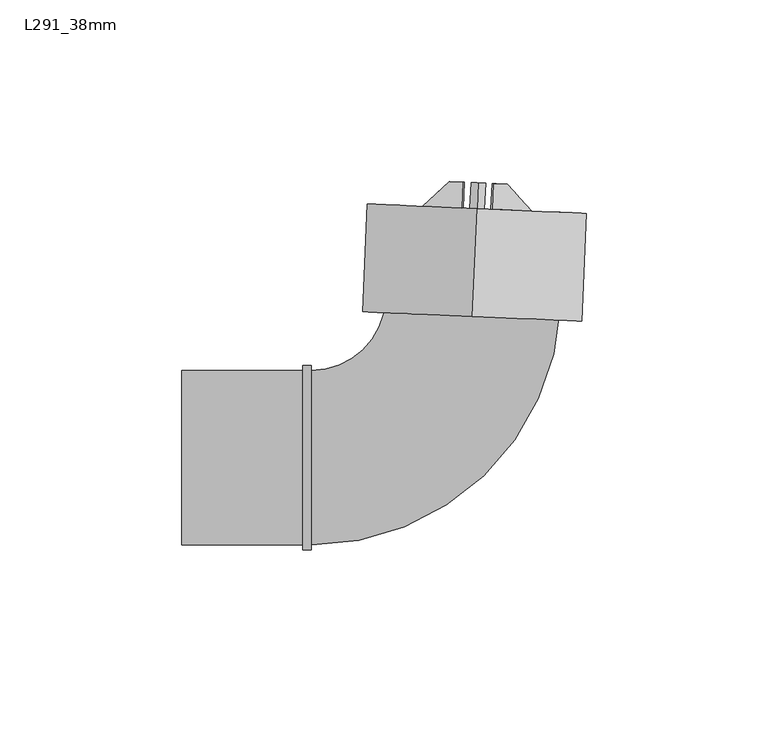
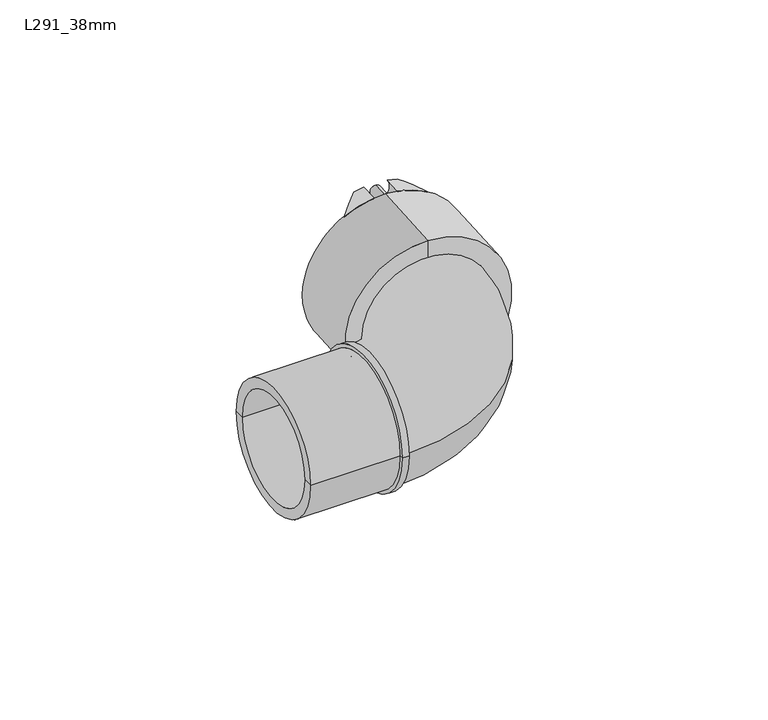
"""IFC4 building model written with IfcOpenShell, lengths in millimetres: pipe fitting geometry, Durapipe_PipeFitting_VulcatheneEnfusion_SingleSocketShortSweepBend_L29 : L291_38mm."""

from ifc_helpers import new_model, si_unit, point, frame, frame_2d, origin, place, context, project, spatial, polyline, circle_curve, ellipse_curve, trimmed, segment, composite_curve, outline, extrude, source, transform, mapped, element, save
from ifc_brep_helpers import plane_surface, cylinder_surface, revolved_surface, advanced_brep


def l291_38mm_34a5a30e(model_context):
    return source(origin(), model_context, "Body", "SolidModel", [
        advanced_brep(
        [(-0.4934982, 75.7931469, -23.8493081), (-0.9344196, 75.8123979, -29.7493081), (-4.6304778, 75.9737713, -28.9820444), (-4.6304778, 75.9737713, -22.8074308), (-11.9934559, 69.1884818, -26.0384811), (-1.2441172, 68.7191556, -29.7493081), (-0.8031959, 68.6999045, -23.8493081), (-11.9934559, 69.1884818, -18.9267668)],
        [
            (0, 1, circle_curve(frame((3.3019651, 75.6274334, -27.1), z_axis=(-0.043619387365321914, -0.9990482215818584, 0.0), x_axis=(0.0, 0.0, 1.0)), 5.0)),
            (1, 2, circle_curve(frame((3.3019651, 75.6274334, 0.0), z_axis=(0.043619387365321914, 0.9990482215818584, 0.0), x_axis=(0.0, 0.0, 1.0)), 30.05)),
            (2, 3),
            (3, 0, circle_curve(frame((3.3019651, 75.6274334, 0.0), z_axis=(-0.043619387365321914, -0.9990482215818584, 0.0), x_axis=(0.0, 0.0, 1.0)), 24.15)),
            (4, 5, circle_curve(frame((2.9922674, 68.534191, 0.0), z_axis=(-0.043619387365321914, -0.9990482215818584, 0.0), x_axis=(0.0, 0.0, 1.0)), 30.05)),
            (5, 6, circle_curve(frame((2.9922674, 68.534191, -27.1), z_axis=(0.043619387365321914, 0.9990482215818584, 0.0), x_axis=(0.0, 0.0, 1.0)), 5.0)),
            (6, 7, circle_curve(frame((2.9922674, 68.534191, 0.0), z_axis=(0.043619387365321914, 0.9990482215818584, 0.0), x_axis=(0.0, 0.0, 1.0)), 24.15)),
            (7, 4),
            (6, 0),
            (3, 7, ellipse_curve(frame((3.6502652, 83.6048193, 0.0), z_axis=(-0.6776702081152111, 0.7353659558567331, 0.0), x_axis=(-0.7353659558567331, -0.6776702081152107, 0.0)), 34.2501456, 24.15)),
            (4, 2, ellipse_curve(frame((3.6502652, 83.6048193, 0.0), z_axis=(0.6776702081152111, -0.7353659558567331, 0.0), x_axis=(0.7353659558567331, 0.6776702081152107, 0.0)), 42.617676, 30.05)),
            (1, 5),
        ],
        [
            plane_surface(frame((-11.6837583, 76.2817242, -26.0384811), z_axis=(0.043619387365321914, 0.9990482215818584, 0.0), x_axis=(0.0, 0.0, 1.0))),
            plane_surface(frame((-11.9934559, 69.1884818, -26.0384811), z_axis=(-0.043619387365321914, -0.9990482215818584, 0.0), x_axis=(0.0, 0.0, -1.0))),
            revolved_surface(polyline([(2.590888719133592, 59.341107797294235, 24.15), (4.7096417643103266, 107.86853079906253, 24.15)]), (2.9922674, 68.534191, 0.0), (-0.043619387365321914, -0.9990482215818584, 0.0)),
            cylinder_surface(frame((2.9922674, 68.534191, 0.0), z_axis=(0.043619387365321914, 0.9990482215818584, 0.0), x_axis=(0.0, 0.0, 1.0)), 30.05),
            revolved_surface(polyline([(3.301965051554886, 75.62743340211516, -22.1), (2.992267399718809, 68.53419099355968, -22.1)]), (2.9922674, 68.534191, -27.1), (0.043619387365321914, 0.9990482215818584, 0.0)),
            plane_surface(frame((-11.9934559, 69.1884818, 30.05), z_axis=(-0.6776702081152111, 0.7353659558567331, 0.0), x_axis=(0.0, 0.0, -1.0))),
        ],
        [
            (0, [[1, 2, 3, 4]]),
            (1, [[5, 6, 7, 8]]),
            (2, [[-7, 9, -4, 10]]),
            (3, [[-5, 11, -2, 12]]),
            (4, [[-1, -9, -6, -12]]),
            (5, [[-3, -11, -8, -10]]),
        ],
    ),
        advanced_brep(
        [(7.5383497, 75.4424688, -29.7493081), (7.0974283, 75.4617199, -23.8493081), (11.2344079, 75.2810955, -22.8074308), (11.2344079, 75.2810955, -28.9820444), (7.228652, 68.3492265, -29.7493081), (17.9779907, 67.8799002, -26.0384811), (17.9779907, 67.8799002, -18.9267668), (6.7877307, 68.3684775, -23.8493081)],
        [
            (0, 1, circle_curve(frame((3.3019651, 75.6274334, -27.1), z_axis=(-0.043619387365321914, -0.9990482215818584, 0.0), x_axis=(0.0, 0.0, 1.0)), 5.0)),
            (1, 2, circle_curve(frame((3.3019651, 75.6274334, 0.0), z_axis=(-0.043619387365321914, -0.9990482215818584, 0.0), x_axis=(0.0, 0.0, 1.0)), 24.15)),
            (2, 3),
            (3, 0, circle_curve(frame((3.3019651, 75.6274334, 0.0), z_axis=(0.043619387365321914, 0.9990482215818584, 0.0), x_axis=(0.0, 0.0, 1.0)), 30.05)),
            (4, 5, circle_curve(frame((2.9922674, 68.534191, 0.0), z_axis=(-0.043619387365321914, -0.9990482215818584, 0.0), x_axis=(0.0, 0.0, 1.0)), 30.05)),
            (5, 6),
            (6, 7, circle_curve(frame((2.9922674, 68.534191, 0.0), z_axis=(0.043619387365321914, 0.9990482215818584, 0.0), x_axis=(0.0, 0.0, 1.0)), 24.15)),
            (7, 4, circle_curve(frame((2.9922674, 68.534191, -27.1), z_axis=(0.043619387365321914, 0.9990482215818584, 0.0), x_axis=(0.0, 0.0, 1.0)), 5.0)),
            (6, 2, ellipse_curve(frame((3.6502652, 83.6048193, 0.0), z_axis=(0.7391828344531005, 0.6735048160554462, 0.0), x_axis=(0.6735048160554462, -0.7391828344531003, 0.0)), 34.2501456, 24.15)),
            (1, 7),
            (4, 0),
            (3, 5, ellipse_curve(frame((3.6502652, 83.6048193, 0.0), z_axis=(-0.7391828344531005, -0.6735048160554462, 0.0), x_axis=(-0.6735048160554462, 0.7391828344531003, 0.0)), 42.617676, 30.05)),
        ],
        [
            plane_surface(frame((-11.6837583, 76.2817242, -26.0384811), z_axis=(0.043619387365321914, 0.9990482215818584, 0.0), x_axis=(0.0, 0.0, 1.0))),
            plane_surface(frame((-11.9934559, 69.1884818, -26.0384811), z_axis=(-0.043619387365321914, -0.9990482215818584, 0.0), x_axis=(0.0, 0.0, -1.0))),
            revolved_surface(polyline([(2.5908887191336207, 59.3411077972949, 24.15), (4.709641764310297, 107.86853079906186, 24.15)]), (2.9922674, 68.534191, 0.0), (-0.043619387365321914, -0.9990482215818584, 0.0)),
            cylinder_surface(frame((2.9922674, 68.534191, 0.0), z_axis=(0.043619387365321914, 0.9990482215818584, 0.0), x_axis=(0.0, 0.0, 1.0)), 30.05),
            revolved_surface(polyline([(3.301965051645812, 75.6274334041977, -22.1), (2.9922674, 68.534191, -22.1)]), (2.9922674, 68.534191, -27.1), (0.043619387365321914, 0.9990482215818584, 0.0)),
            plane_surface(frame((11.2344079, 75.2810955, 30.05), z_axis=(0.7391828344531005, 0.6735048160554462, 0.0), x_axis=(0.0, 0.0, -1.0))),
        ],
        [
            (0, [[1, 2, 3, 4]]),
            (1, [[5, 6, 7, 8]]),
            (2, [[-7, 9, -2, 10]]),
            (3, [[-5, 11, -4, 12]]),
            (4, [[-1, -11, -8, -10]]),
            (5, [[-3, -9, -6, -12]]),
        ],
    ),
        advanced_brep(
        [(-0.9344196, 75.8123979, 29.7493081), (-0.4934982, 75.7931469, 23.8493081), (-4.6304778, 75.9737713, 22.8074308), (-4.6304778, 75.9737713, 28.9820444), (-1.2441172, 68.7191556, 29.7493081), (-11.9934559, 69.1884818, 26.0384811), (-11.9934559, 69.1884818, 18.9267668), (-0.8031959, 68.6999045, 23.8493081)],
        [
            (0, 1, circle_curve(frame((3.3019651, 75.6274334, 27.1), z_axis=(-0.043619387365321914, -0.9990482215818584, 0.0), x_axis=(0.0, 0.0, 1.0)), 5.0)),
            (1, 2, circle_curve(frame((3.3019651, 75.6274334, 0.0), z_axis=(-0.043619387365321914, -0.9990482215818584, 0.0), x_axis=(0.0, 0.0, 1.0)), 24.15)),
            (2, 3),
            (3, 0, circle_curve(frame((3.3019651, 75.6274334, 0.0), z_axis=(0.043619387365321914, 0.9990482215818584, 0.0), x_axis=(0.0, 0.0, 1.0)), 30.05)),
            (4, 5, circle_curve(frame((2.9922674, 68.534191, 0.0), z_axis=(-0.043619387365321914, -0.9990482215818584, 0.0), x_axis=(0.0, 0.0, 1.0)), 30.05)),
            (5, 6),
            (6, 7, circle_curve(frame((2.9922674, 68.534191, 0.0), z_axis=(0.043619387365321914, 0.9990482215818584, 0.0), x_axis=(0.0, 0.0, 1.0)), 24.15)),
            (7, 4, circle_curve(frame((2.9922674, 68.534191, 27.1), z_axis=(0.043619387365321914, 0.9990482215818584, 0.0), x_axis=(0.0, 0.0, 1.0)), 5.0)),
            (6, 2, ellipse_curve(frame((3.6502652, 83.6048193, 0.0), z_axis=(-0.6776702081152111, 0.7353659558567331, 0.0), x_axis=(-0.7353659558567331, -0.6776702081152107, 0.0)), 34.2501456, 24.15)),
            (1, 7),
            (4, 0),
            (3, 5, ellipse_curve(frame((3.6502652, 83.6048193, 0.0), z_axis=(0.6776702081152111, -0.7353659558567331, 0.0), x_axis=(0.7353659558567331, 0.6776702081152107, 0.0)), 42.617676, 30.05)),
        ],
        [
            plane_surface(frame((-11.6837583, 76.2817242, -26.0384811), z_axis=(0.043619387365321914, 0.9990482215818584, 0.0), x_axis=(0.0, 0.0, 1.0))),
            plane_surface(frame((-11.9934559, 69.1884818, -26.0384811), z_axis=(-0.043619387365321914, -0.9990482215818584, 0.0), x_axis=(0.0, 0.0, -1.0))),
            revolved_surface(polyline([(2.590888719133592, 59.341107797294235, 24.15), (4.7096417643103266, 107.86853079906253, 24.15)]), (2.9922674, 68.534191, 0.0), (-0.043619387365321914, -0.9990482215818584, 0.0)),
            cylinder_surface(frame((2.9922674, 68.534191, 0.0), z_axis=(0.043619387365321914, 0.9990482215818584, 0.0), x_axis=(0.0, 0.0, 1.0)), 30.05),
            revolved_surface(polyline([(3.301965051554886, 75.62743340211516, 32.1), (2.992267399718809, 68.53419099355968, 32.1)]), (2.9922674, 68.534191, 27.1), (0.043619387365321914, 0.9990482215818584, 0.0)),
            plane_surface(frame((-11.9934559, 69.1884818, 30.05), z_axis=(-0.6776702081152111, 0.7353659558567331, 0.0), x_axis=(0.0, 0.0, -1.0))),
        ],
        [
            (0, [[1, 2, 3, 4]]),
            (1, [[5, 6, 7, 8]]),
            (2, [[-7, 9, -2, 10]]),
            (3, [[-5, 11, -4, 12]]),
            (4, [[-1, -11, -8, -10]]),
            (5, [[-3, -9, -6, -12]]),
        ],
    ),
        advanced_brep(
        [(7.0974283, 75.4617199, 23.8493081), (7.5383497, 75.4424688, 29.7493081), (11.2344079, 75.2810955, 28.9820444), (11.2344079, 75.2810955, 22.8074308), (17.9779907, 67.8799002, 26.0384811), (7.228652, 68.3492265, 29.7493081), (6.7877307, 68.3684775, 23.8493081), (17.9779907, 67.8799002, 18.9267668)],
        [
            (0, 1, circle_curve(frame((3.3019651, 75.6274334, 27.1), z_axis=(-0.043619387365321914, -0.9990482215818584, 0.0), x_axis=(0.0, 0.0, 1.0)), 5.0)),
            (1, 2, circle_curve(frame((3.3019651, 75.6274334, 0.0), z_axis=(0.043619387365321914, 0.9990482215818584, 0.0), x_axis=(0.0, 0.0, 1.0)), 30.05)),
            (2, 3),
            (3, 0, circle_curve(frame((3.3019651, 75.6274334, 0.0), z_axis=(-0.043619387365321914, -0.9990482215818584, 0.0), x_axis=(0.0, 0.0, 1.0)), 24.15)),
            (4, 5, circle_curve(frame((2.9922674, 68.534191, 0.0), z_axis=(-0.043619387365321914, -0.9990482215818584, 0.0), x_axis=(0.0, 0.0, 1.0)), 30.05)),
            (5, 6, circle_curve(frame((2.9922674, 68.534191, 27.1), z_axis=(0.043619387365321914, 0.9990482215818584, 0.0), x_axis=(0.0, 0.0, 1.0)), 5.0)),
            (6, 7, circle_curve(frame((2.9922674, 68.534191, 0.0), z_axis=(0.043619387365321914, 0.9990482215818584, 0.0), x_axis=(0.0, 0.0, 1.0)), 24.15)),
            (7, 4),
            (6, 0),
            (3, 7, ellipse_curve(frame((3.6502652, 83.6048193, 0.0), z_axis=(0.7391828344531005, 0.6735048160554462, 0.0), x_axis=(0.6735048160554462, -0.7391828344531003, 0.0)), 34.2501456, 24.15)),
            (4, 2, ellipse_curve(frame((3.6502652, 83.6048193, 0.0), z_axis=(-0.7391828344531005, -0.6735048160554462, 0.0), x_axis=(-0.6735048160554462, 0.7391828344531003, 0.0)), 42.617676, 30.05)),
            (1, 5),
        ],
        [
            plane_surface(frame((-11.6837583, 76.2817242, -26.0384811), z_axis=(0.043619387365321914, 0.9990482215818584, 0.0), x_axis=(0.0, 0.0, 1.0))),
            plane_surface(frame((-11.9934559, 69.1884818, -26.0384811), z_axis=(-0.043619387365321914, -0.9990482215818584, 0.0), x_axis=(0.0, 0.0, -1.0))),
            revolved_surface(polyline([(2.5908887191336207, 59.3411077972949, 24.15), (4.709641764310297, 107.86853079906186, 24.15)]), (2.9922674, 68.534191, 0.0), (-0.043619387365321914, -0.9990482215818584, 0.0)),
            cylinder_surface(frame((2.9922674, 68.534191, 0.0), z_axis=(0.043619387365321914, 0.9990482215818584, 0.0), x_axis=(0.0, 0.0, 1.0)), 30.05),
            revolved_surface(polyline([(3.301965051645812, 75.6274334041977, 32.1), (2.9922674, 68.534191, 32.1)]), (2.9922674, 68.534191, 27.1), (0.043619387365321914, 0.9990482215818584, 0.0)),
            plane_surface(frame((11.2344079, 75.2810955, 30.05), z_axis=(0.7391828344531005, 0.6735048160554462, 0.0), x_axis=(0.0, 0.0, -1.0))),
        ],
        [
            (0, [[1, 2, 3, 4]]),
            (1, [[5, 6, 7, 8]]),
            (2, [[-7, 9, -4, 10]]),
            (3, [[-5, 11, -2, 12]]),
            (4, [[-1, -9, -6, -12]]),
            (5, [[-3, -11, -8, -10]]),
        ],
    ),
        extrude(outline(composite_curve([segment(trimmed(circle_curve(frame_2d((0.0, -2.0)), 2.0), [point((0.0, -4.0))], [point((0.0, 0.0))], False, "CARTESIAN"), True, "CONTINUOUS"), segment(trimmed(circle_curve(frame_2d((0.0, -2.0)), 2.0), [point((0.0, 0.0))], [point((0.0, -4.0))], False, "CARTESIAN"), True, "CONTINUOUS")], self_intersect=False)), frame((2.9922674, 68.534191, -25.1), z_axis=(0.043619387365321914, 0.9990482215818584, 0.0), x_axis=(-0.9990482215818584, 0.043619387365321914, 0.0)), (0.0, 0.0, 1.0), 7.1),
        extrude(outline(composite_curve([segment(trimmed(circle_curve(frame_2d((0.0, 52.2)), 2.0), [point((0.0, 50.2))], [point((0.0, 54.2))], False, "CARTESIAN"), True, "CONTINUOUS"), segment(trimmed(circle_curve(frame_2d((0.0, 52.2)), 2.0), [point((0.0, 54.2))], [point((0.0, 50.2))], False, "CARTESIAN"), True, "CONTINUOUS")], self_intersect=False)), frame((2.9922674, 68.534191, -25.1), z_axis=(0.043619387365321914, 0.9990482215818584, 0.0), x_axis=(-0.9990482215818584, 0.043619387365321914, 0.0)), (0.0, 0.0, 1.0), 7.1),
        advanced_brep(
        [(1.8581633, 42.5589373, -20.25), (1.8581633, 42.5589373, 20.25), (1.8581633, 42.5589373, 24.0), (1.8581633, 42.5589373, -24.0), (1.6967716, 38.8624588, -20.25), (1.6967716, 38.8624588, 20.25), (1.6967716, 38.8624588, -30.2), (1.6967716, 38.8624588, 30.2), (2.9922674, 68.534191, -30.2), (2.9922674, 68.534191, 30.2), (2.9922674, 68.534191, -24.0), (2.9922674, 68.534191, 24.0)],
        [
            (0, 1, circle_curve(frame((1.8581633, 42.5589373, 0.0), z_axis=(-0.043619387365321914, -0.9990482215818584, 0.0), x_axis=(0.0, 0.0, 1.0)), 20.25)),
            (1, 2),
            (2, 3, circle_curve(frame((1.8581633, 42.5589373, 0.0), z_axis=(0.043619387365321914, 0.9990482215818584, 0.0), x_axis=(0.0, 0.0, 1.0)), 24.0)),
            (3, 0),
            (1, 0, circle_curve(frame((1.8581633, 42.5589373, 0.0), z_axis=(-0.043619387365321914, -0.9990482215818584, 0.0), x_axis=(0.0, 0.0, 1.0)), 20.25)),
            (3, 2, circle_curve(frame((1.8581633, 42.5589373, 0.0), z_axis=(0.043619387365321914, 0.9990482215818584, 0.0), x_axis=(0.0, 0.0, 1.0)), 24.0)),
            (4, 5, circle_curve(frame((1.6967716, 38.8624588, 0.0), z_axis=(-0.043619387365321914, -0.9990482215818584, 0.0), x_axis=(0.0, 0.0, 1.0)), 20.25)),
            (5, 1),
            (0, 4),
            (5, 4, circle_curve(frame((1.6967716, 38.8624588, 0.0), z_axis=(-0.043619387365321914, -0.9990482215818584, 0.0), x_axis=(0.0, 0.0, 1.0)), 20.25)),
            (6, 7, circle_curve(frame((1.6967716, 38.8624588, 0.0), z_axis=(-0.043619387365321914, -0.9990482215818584, 0.0), x_axis=(0.0, 0.0, 1.0)), 30.2)),
            (7, 5),
            (4, 6),
            (7, 6, circle_curve(frame((1.6967716, 38.8624588, 0.0), z_axis=(-0.043619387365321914, -0.9990482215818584, 0.0), x_axis=(0.0, 0.0, 1.0)), 30.2)),
            (8, 9, circle_curve(frame((2.9922674, 68.534191, 0.0), z_axis=(-0.043619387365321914, -0.9990482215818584, 0.0), x_axis=(0.0, 0.0, 1.0)), 30.2)),
            (9, 7),
            (6, 8),
            (9, 8, circle_curve(frame((2.9922674, 68.534191, 0.0), z_axis=(-0.043619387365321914, -0.9990482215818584, 0.0), x_axis=(0.0, 0.0, 1.0)), 30.2)),
            (10, 11, circle_curve(frame((2.9922674, 68.534191, 0.0), z_axis=(-0.043619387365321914, -0.9990482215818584, 0.0), x_axis=(0.0, 0.0, 1.0)), 24.0)),
            (11, 9),
            (8, 10),
            (11, 10, circle_curve(frame((2.9922674, 68.534191, 0.0), z_axis=(-0.043619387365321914, -0.9990482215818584, 0.0), x_axis=(0.0, 0.0, 1.0)), 24.0)),
            (2, 11),
            (10, 3),
        ],
        [
            plane_surface(frame((1.8581633, 42.5589373, 0.0), z_axis=(0.043619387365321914, 0.9990482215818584, 0.0), x_axis=(0.0, 0.0, 1.0))),
            revolved_surface(polyline([(1.8581633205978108, 42.55893729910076, 20.25), (1.6967715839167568, 38.86245880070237, 20.25)]), (112.6506493, 2580.1240607, 0.0), (0.043619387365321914, 0.9990482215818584, 0.0)),
            plane_surface(frame((1.6967716, 38.8624588, 0.0), z_axis=(-0.043619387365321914, -0.9990482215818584, 0.0), x_axis=(0.0, 0.0, 1.0))),
            cylinder_surface(frame((112.6506493, 2580.1240607, 0.0), z_axis=(0.043619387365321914, 0.9990482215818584, 0.0), x_axis=(0.0, 0.0, 1.0)), 30.2),
            plane_surface(frame((2.9922674, 68.534191, 0.0), z_axis=(0.043619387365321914, 0.9990482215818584, 0.0), x_axis=(0.0, 0.0, 1.0))),
            revolved_surface(polyline([(2.992267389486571, 68.53419100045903, 24.0), (1.8581633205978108, 42.55893729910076, 24.0)]), (112.6506493, 2580.1240607, 0.0), (0.043619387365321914, 0.9990482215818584, 0.0)),
        ],
        [
            (0, [[1, 2, 3, 4]]),
            (0, [[5, -4, 6, -2]]),
            (1, [[7, 8, -1, 9]]),
            (1, [[10, -9, -5, -8]]),
            (2, [[11, 12, -7, 13]]),
            (2, [[14, -13, -10, -12]]),
            (3, [[15, 16, -11, 17]]),
            (3, [[18, -17, -14, -16]]),
            (4, [[19, 20, -15, 21]]),
            (4, [[22, -21, -18, -20]]),
            (5, [[-3, 23, -19, 24]]),
            (5, [[-6, -24, -22, -23]]),
        ],
    ),
        advanced_brep(
        [(-42.5994825, -25.397, 0.0), (-42.5994825, 25.397, 0.0), (-42.5994825, 24.0, 0.0), (-42.5994825, -24.0, 0.0), (-44.9616825, -25.397, 0.0), (-44.9616825, 25.397, 0.0), (-44.9616825, -24.0, 0.0), (-44.9616825, 24.0, 0.0), (-78.2616825, -24.0, 0.0), (-78.2616825, 24.0, 0.0), (-78.2616825, -20.25, 0.0), (-78.2616825, 20.25, 0.0), (-42.5994825, -20.25, 0.0), (-42.5994825, -14.3189123, -14.3189123), (-42.5994825, 0.0, -20.25), (-42.5994825, 14.3189123, -14.3189123), (-42.5994825, 20.25, 0.0), (-42.5994825, 14.3189123, 14.3189123), (-42.5994825, 0.0, 20.25), (-42.5994825, -14.3189123, 14.3189123), (25.8353206, 41.512072, 0.0), (-22.118994, 43.6058026, 0.0), (22.0888898, 41.6756447, 0.0), (-18.3725632, 43.4422299, 0.0)],
        [
            (0, 1, circle_curve(frame((-42.5994825, 0.0, 0.0), z_axis=(1.0, 0.0, 0.0), x_axis=(0.0, 1.0, 0.0)), 25.397)),
            (1, 2),
            (2, 3, circle_curve(frame((-42.5994825, 0.0, 0.0), z_axis=(-1.0, 0.0, 0.0), x_axis=(0.0, 1.0, 0.0)), 24.0)),
            (3, 0),
            (1, 0, circle_curve(frame((-42.5994825, 0.0, 0.0), z_axis=(1.0, 0.0, 0.0), x_axis=(0.0, 1.0, 0.0)), 25.397)),
            (3, 2, circle_curve(frame((-42.5994825, 0.0, 0.0), z_axis=(-1.0, 0.0, 0.0), x_axis=(0.0, 1.0, 0.0)), 24.0)),
            (0, 4),
            (4, 5, circle_curve(frame((-44.9616825, 0.0, 0.0), z_axis=(1.0, 0.0, 0.0), x_axis=(0.0, 1.0, 0.0)), 25.397)),
            (5, 1),
            (5, 4, circle_curve(frame((-44.9616825, 0.0, 0.0), z_axis=(1.0, 0.0, 0.0), x_axis=(0.0, 1.0, 0.0)), 25.397)),
            (4, 6),
            (6, 7, circle_curve(frame((-44.9616825, 0.0, 0.0), z_axis=(1.0, 0.0, 0.0), x_axis=(0.0, 1.0, 0.0)), 24.0)),
            (7, 5),
            (7, 6, circle_curve(frame((-44.9616825, 0.0, 0.0), z_axis=(1.0, 0.0, 0.0), x_axis=(0.0, 1.0, 0.0)), 24.0)),
            (6, 8),
            (8, 9, circle_curve(frame((-78.2616825, 0.0, 0.0), z_axis=(1.0, 0.0, 0.0), x_axis=(0.0, 1.0, 0.0)), 24.0)),
            (9, 7),
            (9, 8, circle_curve(frame((-78.2616825, 0.0, 0.0), z_axis=(1.0, 0.0, 0.0), x_axis=(0.0, 1.0, 0.0)), 24.0)),
            (8, 10),
            (10, 11, circle_curve(frame((-78.2616825, 0.0, 0.0), z_axis=(1.0, 0.0, 0.0), x_axis=(0.0, 1.0, 0.0)), 20.25)),
            (11, 9),
            (11, 10, circle_curve(frame((-78.2616825, 0.0, 0.0), z_axis=(1.0, 0.0, 0.0), x_axis=(0.0, 1.0, 0.0)), 20.25)),
            (10, 12),
            (12, 13, circle_curve(frame((-42.5994825, 0.0, 0.0), z_axis=(1.0, 0.0, 0.0), x_axis=(0.0, 1.0, 0.0)), 20.25)),
            (13, 14, circle_curve(frame((-42.5994825, 0.0, 0.0), z_axis=(1.0, 0.0, 0.0), x_axis=(0.0, 1.0, 0.0)), 20.25)),
            (14, 15, circle_curve(frame((-42.5994825, 0.0, 0.0), z_axis=(1.0, 0.0, 0.0), x_axis=(0.0, 1.0, 0.0)), 20.25)),
            (15, 16, circle_curve(frame((-42.5994825, 0.0, 0.0), z_axis=(1.0, 0.0, 0.0), x_axis=(0.0, 1.0, 0.0)), 20.25)),
            (16, 11),
            (16, 17, circle_curve(frame((-42.5994825, 0.0, 0.0), z_axis=(1.0, 0.0, 0.0), x_axis=(0.0, 1.0, 0.0)), 20.25)),
            (17, 18, circle_curve(frame((-42.5994825, 0.0, 0.0), z_axis=(1.0, 0.0, 0.0), x_axis=(0.0, 1.0, 0.0)), 20.25)),
            (18, 19, circle_curve(frame((-42.5994825, 0.0, 0.0), z_axis=(1.0, 0.0, 0.0), x_axis=(0.0, 1.0, 0.0)), 20.25)),
            (19, 12, circle_curve(frame((-42.5994825, 0.0, 0.0), z_axis=(1.0, 0.0, 0.0), x_axis=(0.0, 1.0, 0.0)), 20.25)),
            (20, 21, circle_curve(frame((1.8581633, 42.5589373, 0.0), z_axis=(0.04361938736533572, 0.9990482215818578, 0.0), x_axis=(-0.9990482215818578, 0.04361938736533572, 0.0)), 24.0)),
            (21, 20, circle_curve(frame((1.8581633, 42.5589373, 0.0), z_axis=(0.04361938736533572, 0.9990482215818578, 0.0), x_axis=(-0.9990482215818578, 0.04361938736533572, 0.0)), 24.0)),
            (22, 23, circle_curve(frame((1.8581633, 42.5589373, 0.0), z_axis=(-0.04361938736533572, -0.9990482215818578, 0.0), x_axis=(-0.9990482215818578, 0.04361938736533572, 0.0)), 20.25)),
            (23, 22, circle_curve(frame((1.8581633, 42.5589373, 0.0), z_axis=(-0.04361938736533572, -0.9990482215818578, 0.0), x_axis=(-0.9990482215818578, 0.04361938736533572, 0.0)), 20.25)),
            (21, 2, circle_curve(frame((-42.5994825, 44.5, 0.0), z_axis=(0.0, 0.0, -1.0), x_axis=(0.0, -1.0, 0.0)), 20.5)),
            (3, 20, circle_curve(frame((-42.5994825, 44.5, 0.0), z_axis=(0.0, 0.0, 1.0), x_axis=(0.0, -1.0, 0.0)), 68.5)),
            (23, 16, circle_curve(frame((-42.5994825, 44.5, 0.0), z_axis=(0.0, 0.0, -1.0), x_axis=(0.0, -1.0, 0.0)), 24.25)),
            (12, 22, circle_curve(frame((-42.5994825, 44.5, 0.0), z_axis=(0.0, 0.0, 1.0), x_axis=(0.0, -1.0, 0.0)), 64.75)),
        ],
        [
            plane_surface(frame((-42.5994825, 0.0, 0.0), z_axis=(1.0, 0.0, 0.0), x_axis=(0.0, 1.0, 0.0))),
            cylinder_surface(frame((1571.26036, 0.0, 0.0), z_axis=(-1.0, 0.0, 0.0), x_axis=(0.0, 1.0, 0.0)), 25.397),
            plane_surface(frame((-44.9616825, 0.0, 0.0), z_axis=(-1.0, 0.0, 0.0), x_axis=(0.0, 1.0, 0.0))),
            cylinder_surface(frame((1571.26036, 0.0, 0.0), z_axis=(-1.0, 0.0, 0.0), x_axis=(0.0, 1.0, 0.0)), 24.0),
            plane_surface(frame((-78.2616825, 0.0, 0.0), z_axis=(-1.0, 0.0, 0.0), x_axis=(0.0, 1.0, 0.0))),
            revolved_surface(polyline([(-78.2616825, 20.25, 0.0), (-42.59948250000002, 20.25, 0.0)]), (1571.26036, 0.0, 0.0), (-1.0, 0.0, 0.0)),
            plane_surface(frame((1.8581633, 42.5589373, 0.0), z_axis=(0.04361938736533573, 0.9990482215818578, 0.0), x_axis=(0.0, 0.0, 1.0))),
            revolved_surface(trimmed(ellipse_curve(frame((-42.5994825, 0.0, 0.0), z_axis=(-1.0, 0.0, 0.0), x_axis=(0.0, 1.0, 0.0)), 24.0, 24.0), [point((-42.5994825, -24.0, 0.0))], [point((-42.5994825, 24.0, 0.0))], True, "CARTESIAN"), (-42.5994825, 44.5, 0.0), (0.0, 0.0, 1.0)),
            revolved_surface(trimmed(ellipse_curve(frame((-42.5994825, 0.0, 0.0), z_axis=(-1.0, 0.0, 0.0), x_axis=(0.0, 1.0, 0.0)), 24.0, 24.0), [point((-42.5994825, 24.0, 0.0))], [point((-42.5994825, -24.0, 0.0))], True, "CARTESIAN"), (-42.5994825, 44.5, 0.0), (0.0, 0.0, 1.0)),
            revolved_surface(trimmed(ellipse_curve(frame((-42.5994825, 0.0, 0.0), z_axis=(1.0, 0.0, 0.0), x_axis=(0.0, 1.0, 0.0)), 20.25, 20.25), [point((-42.5994825, -20.25, 0.0))], [point((-42.5994825, 20.25, 0.0))], True, "CARTESIAN"), (-42.5994825, 44.5, 0.0), (0.0, 0.0, 1.0)),
            revolved_surface(trimmed(ellipse_curve(frame((-42.5994825, 0.0, 0.0), z_axis=(1.0, 0.0, 0.0), x_axis=(0.0, 1.0, 0.0)), 20.25, 20.25), [point((-42.5994825, 20.25, 0.0))], [point((-42.5994825, -20.25, 0.0))], True, "CARTESIAN"), (-42.5994825, 44.5, 0.0), (0.0, 0.0, 1.0)),
        ],
        [
            (0, [[1, 2, 3, 4]]),
            (0, [[5, -4, 6, -2]]),
            (1, [[-1, 7, 8, 9]]),
            (1, [[-5, -9, 10, -7]]),
            (2, [[-8, 11, 12, 13]]),
            (2, [[-10, -13, 14, -11]]),
            (3, [[-12, 15, 16, 17]]),
            (3, [[-14, -17, 18, -15]]),
            (4, [[-16, 19, 20, 21]]),
            (4, [[-18, -21, 22, -19]]),
            (5, [[-20, 23, 24, 25, 26, 27, 28]]),
            (5, [[-22, -28, 29, 30, 31, 32, -23]]),
            (6, [[33, 34], [35, 36]]),
            (7, [[-34, 37, -6, 38]]),
            (8, [[-33, -38, -3, -37]]),
            (9, [[-36, 39, -27, -26, -25, -24, 40]]),
            (10, [[-35, -40, -32, -31, -30, -29, -39]]),
        ],
    ),
    ])


if __name__ == "__main__":
    model = new_model("IFC4")
    model_context = context("Model", 3, world=origin())
    ifc_project = project(units=[si_unit("LENGTHUNIT", "METRE", prefix="MILLI")], contexts=[model_context])
    site = spatial("IfcSite", under=ifc_project)
    building = spatial("IfcBuilding", under=site)
    placement = place(None, origin())
    l291_38mm_shape = l291_38mm_34a5a30e(model_context)
    element("IfcPipeFitting", 1, ObjectType="Durapipe_PipeFitting_VulcatheneEnfusion_SingleSocketShortSweepBend_L29 : L291_38mm", at=placement, inside=building, context=model_context, shape_type="MappedRepresentation", body=[
        mapped(l291_38mm_shape, transform((0.0, 0.0, 0.0), x_axis=(1.0, 0.0, 0.0), y_axis=(0.0, 1.0, 0.0), z_axis=(0.0, 0.0, 1.0))),
    ])
    save(model, "model.ifc")
